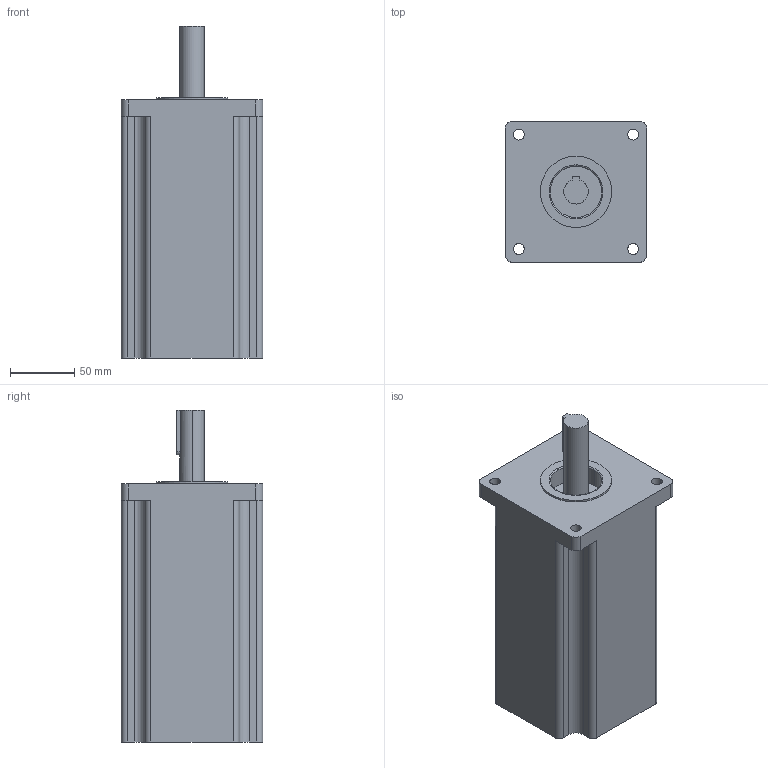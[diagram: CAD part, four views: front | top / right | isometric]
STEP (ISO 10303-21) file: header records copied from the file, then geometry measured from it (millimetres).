
FILE_DESCRIPTION (( 'STEP AP203' ), '1' );
FILE_NAME ('110CM28 MS20.STEP', '2021-04-25T08:18:00', ( 'Owner' ), ( 'Organization' ), 'SwSTEP 2.0', 'SolidWorks 2018', '' );
FILE_SCHEMA (( 'CONFIG_CONTROL_DESIGN' ));
Length unit declared in the file: millimetre
Products named in the file (3): 110CM28 MS20; 110隅赽_Default_Default_Default; 蛌赽28_Default_Default
Assembly tree (2 placements, depth 2):
  110CM28 MS20
    蛌赽28_Default_Default
    110隅赽_Default_Default_Default
Bounding box: 110 x 110 x 258.5 mm (x, y, z)
Volume: 2181567.9 mm3; surface area: 115133.2 mm2
Topology: 2 solids, 2 shells, 58 faces, 156 edges, 104 vertices
Faces by surface type: cylinder 31, plane 25, torus 2
Entity records: 2198 total; most frequent: CARTESIAN_POINT 354, DIRECTION 349, ORIENTED_EDGE 312, EDGE_CURVE 156, AXIS2_PLACEMENT_3D 131, VERTEX_POINT 104, LINE 87, VECTOR 87
